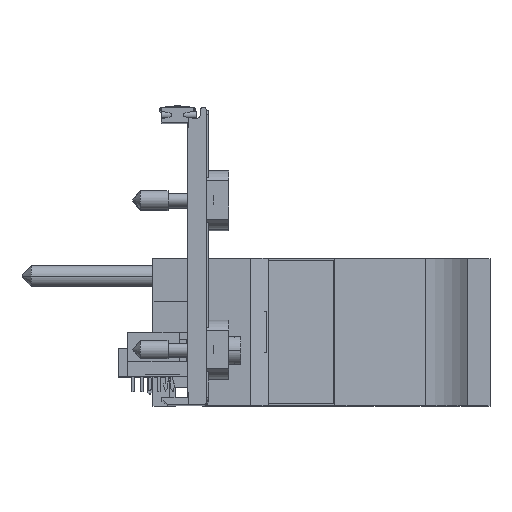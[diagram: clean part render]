
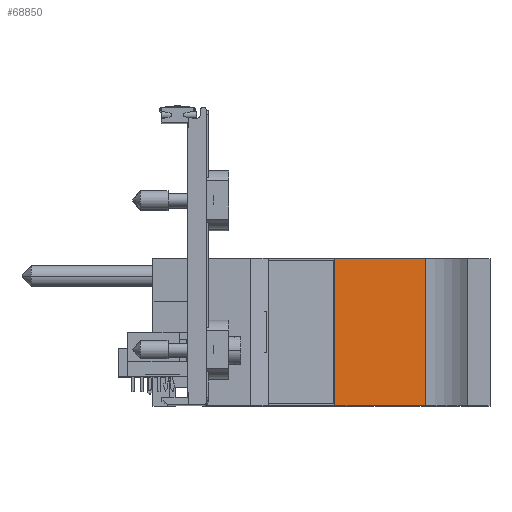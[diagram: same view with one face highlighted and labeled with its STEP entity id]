
A CAD part, top view. The second image highlights one B-rep face of the part: STEP entity #68850.
In plain terms, the highlighted planar face has unit normal (0.065, 0, 0.998).
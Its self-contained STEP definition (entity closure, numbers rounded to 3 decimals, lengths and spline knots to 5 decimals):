
#24441=DIRECTION('',(-0.998,0.,0.065));
#24442=VECTOR('',#24441,0.48638);
#24443=CARTESIAN_POINT('',(1.51244,0.633,-1.78176));
#24444=LINE('',#24443,#24442);
#24743=DIRECTION('',(-0.998,0.,0.065));
#24744=VECTOR('',#24743,0.48638);
#24745=CARTESIAN_POINT('',(1.51244,-0.155,-1.78176));
#24746=LINE('',#24745,#24744);
#24966=DIRECTION('',(0.,1.,0.));
#24967=VECTOR('',#24966,0.788);
#24968=CARTESIAN_POINT('',(1.0271,-0.155,-1.74998));
#24969=LINE('',#24968,#24967);
#24970=DIRECTION('',(0.,-1.,0.));
#24971=VECTOR('',#24970,0.788);
#24972=CARTESIAN_POINT('',(1.51244,0.633,-1.78176));
#24973=LINE('',#24972,#24971);
#34480=CARTESIAN_POINT('',(1.51244,-0.155,-1.78176));
#34481=VERTEX_POINT('',#34480);
#34486=CARTESIAN_POINT('',(1.51244,0.633,-1.78176));
#34487=VERTEX_POINT('',#34486);
#34598=CARTESIAN_POINT('',(1.0271,-0.155,-1.74998));
#34599=VERTEX_POINT('',#34598);
#34606=CARTESIAN_POINT('',(1.0271,0.633,-1.74998));
#34607=VERTEX_POINT('',#34606);
#68838=CARTESIAN_POINT('',(1.51244,0.633,-1.78176));
#68839=DIRECTION('',(-0.065,0.,-0.998));
#68840=DIRECTION('',(-0.998,0.,0.065));
#68841=AXIS2_PLACEMENT_3D('',#68838,#68839,#68840);
#68842=PLANE('',#68841);
#68843=ORIENTED_EDGE('',*,*,#68833,.T.);
#68844=ORIENTED_EDGE('',*,*,#68180,.F.);
#68846=ORIENTED_EDGE('',*,*,#68845,.T.);
#68847=ORIENTED_EDGE('',*,*,#68611,.T.);
#68848=EDGE_LOOP('',(#68843,#68844,#68846,#68847));
#68849=FACE_OUTER_BOUND('',#68848,.F.);
#68850=ADVANCED_FACE('',(#68849),#68842,.F.);
#68180=EDGE_CURVE('',#34487,#34607,#24444,.T.);
#68611=EDGE_CURVE('',#34481,#34599,#24746,.T.);
#68833=EDGE_CURVE('',#34599,#34607,#24969,.T.);
#68845=EDGE_CURVE('',#34487,#34481,#24973,.T.);
